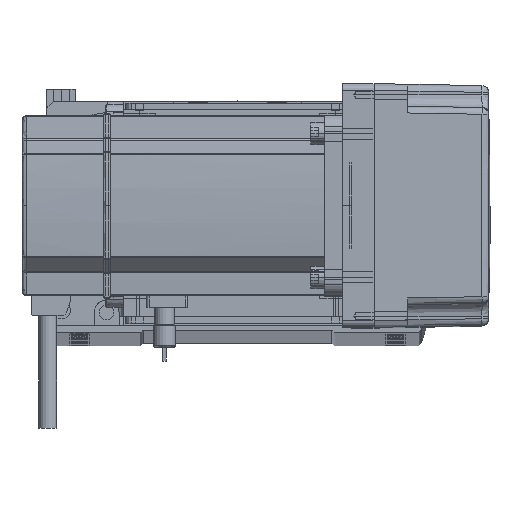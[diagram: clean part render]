
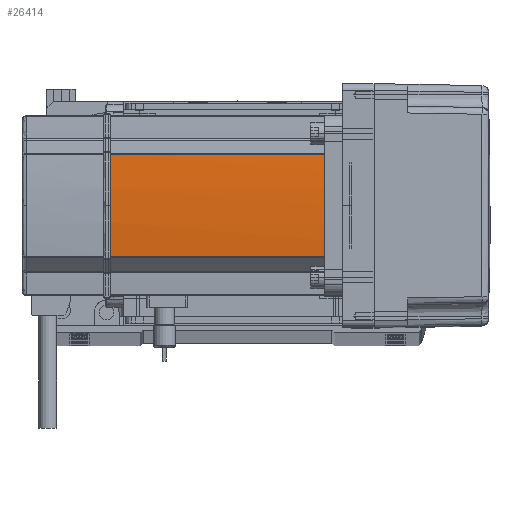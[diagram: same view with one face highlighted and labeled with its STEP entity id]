
A CAD part, top view. The second image highlights one B-rep face of the part: STEP entity #26414.
In plain terms, the highlighted cylindrical face has radius 270 mm (diameter 540 mm), a partial arc.
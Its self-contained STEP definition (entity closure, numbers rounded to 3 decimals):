
#285 = CIRCLE ( 'NONE', #32976, 270. ) ;
#2130 = CARTESIAN_POINT ( 'NONE',  ( 230., 0., 39. ) ) ;
#2841 = FACE_OUTER_BOUND ( 'NONE', #63634, .T. ) ;
#5238 = CARTESIAN_POINT ( 'NONE',  ( 230., 0., 0. ) ) ;
#5718 = ORIENTED_EDGE ( 'NONE', *, *, #6738, .T. ) ;
#6738 = EDGE_CURVE ( 'NONE', #32297, #34120, #17489, .T. ) ;
#7270 = AXIS2_PLACEMENT_3D ( 'NONE', #42861, #48088, #58343 ) ;
#10132 = ORIENTED_EDGE ( 'NONE', *, *, #23549, .F. ) ;
#15821 = CARTESIAN_POINT ( 'NONE',  ( -40., 0., 134. ) ) ;
#17326 = CARTESIAN_POINT ( 'NONE',  ( -39.042, 22.724, 134. ) ) ;
#17489 = LINE ( 'NONE', #52237, #23242 ) ;
#18355 = CYLINDRICAL_SURFACE ( 'NONE', #44351, 270. ) ;
#20139 = VERTEX_POINT ( 'NONE', #15821 ) ;
#22539 = CARTESIAN_POINT ( 'NONE',  ( -39.042, -22.724, 39. ) ) ;
#23242 = VECTOR ( 'NONE', #57476, 1000. ) ;
#23549 = EDGE_CURVE ( 'NONE', #32297, #37061, #285, .T. ) ;
#25527 = EDGE_CURVE ( 'NONE', #20139, #46231, #46062, .T. ) ;
#26414 = ADVANCED_FACE ( 'NONE', ( #2841 ), #18355, .T. ) ;
#31254 = DIRECTION ( 'NONE',  ( 1., 0., 0. ) ) ;
#31266 = LINE ( 'NONE', #47157, #63719 ) ;
#32291 = CARTESIAN_POINT ( 'NONE',  ( 230., 0., 134. ) ) ;
#32297 = VERTEX_POINT ( 'NONE', #22539 ) ;
#32415 = AXIS2_PLACEMENT_3D ( 'NONE', #32291, #52243, #47451 ) ;
#32976 = AXIS2_PLACEMENT_3D ( 'NONE', #2130, #33386, #34479 ) ;
#33386 = DIRECTION ( 'NONE',  ( 0., 0., -1. ) ) ;
#34120 = VERTEX_POINT ( 'NONE', #64121 ) ;
#34479 = DIRECTION ( 'NONE',  ( 1., 0., 0. ) ) ;
#35958 = EDGE_CURVE ( 'NONE', #34120, #20139, #63120, .T. ) ;
#36666 = DIRECTION ( 'NONE',  ( 0., 0., 1. ) ) ;
#37061 = VERTEX_POINT ( 'NONE', #48832 ) ;
#42861 = CARTESIAN_POINT ( 'NONE',  ( 230., 0., 134. ) ) ;
#44351 = AXIS2_PLACEMENT_3D ( 'NONE', #5238, #36666, #31254 ) ;
#45816 = ORIENTED_EDGE ( 'NONE', *, *, #48361, .T. ) ;
#46062 = CIRCLE ( 'NONE', #7270, 270. ) ;
#46231 = VERTEX_POINT ( 'NONE', #17326 ) ;
#47157 = CARTESIAN_POINT ( 'NONE',  ( -39.042, 22.724, 0. ) ) ;
#47451 = DIRECTION ( 'NONE',  ( 1., 0., 0. ) ) ;
#48088 = DIRECTION ( 'NONE',  ( 0., 0., -1. ) ) ;
#48361 = EDGE_CURVE ( 'NONE', #46231, #37061, #31266, .T. ) ;
#48832 = CARTESIAN_POINT ( 'NONE',  ( -39.042, 22.724, 39. ) ) ;
#52237 = CARTESIAN_POINT ( 'NONE',  ( -39.042, -22.724, 0. ) ) ;
#52243 = DIRECTION ( 'NONE',  ( 0., 0., -1. ) ) ;
#52399 = DIRECTION ( 'NONE',  ( 0., 0., -1. ) ) ;
#57476 = DIRECTION ( 'NONE',  ( 0., 0., 1. ) ) ;
#57810 = ORIENTED_EDGE ( 'NONE', *, *, #25527, .T. ) ;
#58343 = DIRECTION ( 'NONE',  ( 1., 0., 0. ) ) ;
#63120 = CIRCLE ( 'NONE', #32415, 270. ) ;
#63634 = EDGE_LOOP ( 'NONE', ( #66965, #57810, #45816, #10132, #5718 ) ) ;
#63719 = VECTOR ( 'NONE', #52399, 1000. ) ;
#64121 = CARTESIAN_POINT ( 'NONE',  ( -39.042, -22.724, 134. ) ) ;
#66965 = ORIENTED_EDGE ( 'NONE', *, *, #35958, .T. ) ;
